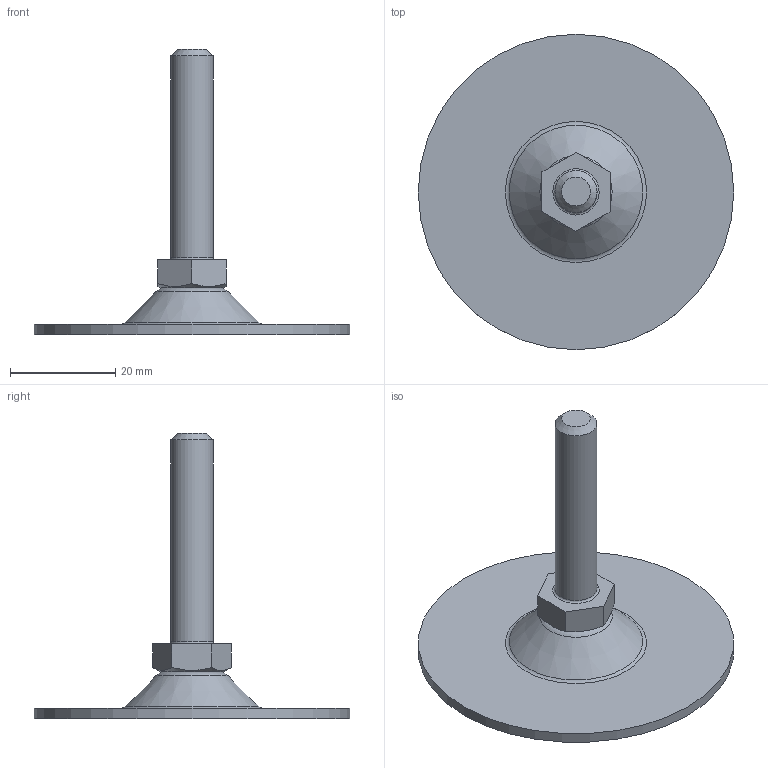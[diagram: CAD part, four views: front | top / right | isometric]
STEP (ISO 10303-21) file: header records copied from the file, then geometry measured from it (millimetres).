
FILE_DESCRIPTION(('STEP AP203'), '1');
FILE_NAME('A00050.1060816', '', ('UNSPECIFIED'), ('UNSPECIFIED'), 'C3D Converter', 'C3D Toolkit', '');
FILE_SCHEMA(('CONFIG_CONTROL_DESIGN'));
Length unit declared in the file: millimetre
Products named in the file (4): A00050.1060840; A00050.1160
Assembly tree (3 placements, depth 2):
  A00050.1060840
    A00050.1160
    (unnamed)
    (unnamed)
Bounding box: 60 x 60 x 54.26 mm (x, y, z)
Volume: 8751.2 mm3; surface area: 8268.3 mm2
Topology: 3 solids, 3 shells, 58 faces, 130 edges, 82 vertices
Faces by surface type: plane 28, torus 8, bspline 8, cone 7, cylinder 6, sphere 1
Full cylindrical faces by diameter (mm): 3.3 x1, 4 x1, 4.5 x1, 8 x2, 60 x1
Entity records: 2171 total; most frequent: CARTESIAN_POINT 784, DIRECTION 242, ORIENTED_EDGE 214, EDGE_CURVE 107, AXIS2_PLACEMENT_3D 95, EDGE_LOOP 86, VERTEX_POINT 81, ADVANCED_FACE 58
